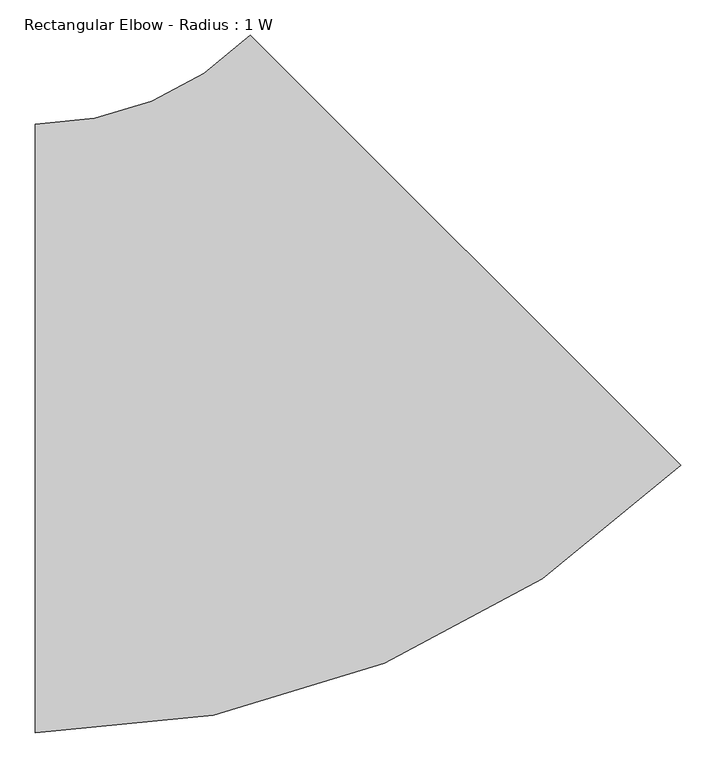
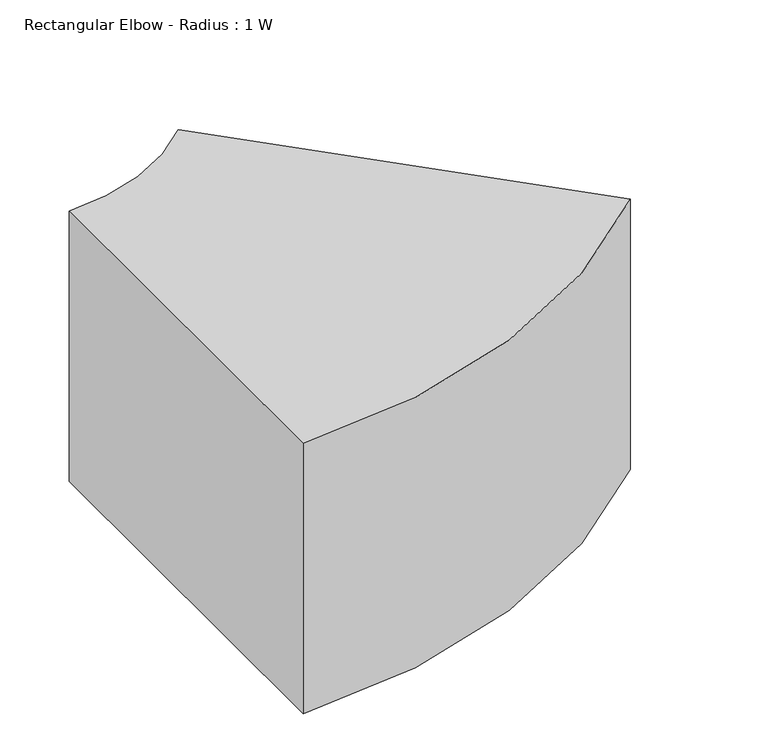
"""IFC4 building model written with IfcOpenShell, lengths in millimetres: duct fitting geometry, Rectangular Elbow - Radius : 1 W."""

from ifc_helpers import new_model, si_unit, point, frame, frame_2d, origin, place, context, project, spatial, polyline, circle_curve, trimmed, segment, composite_curve, outline, extrude, source, transform, mapped, element, save


def rectangular_elbow_radius_1_w_274ad7e4(model_context):
    return source(origin(), model_context, "Body", "SweptSolid", [
        extrude(outline(composite_curve([segment(trimmed(circle_curve(frame_2d((-357.7148325, 863.6)), 1295.4), [point((558.2712919, -52.3861243))], [point((-357.7148325, -431.8))], False, "CARTESIAN"), True, "CONTINUOUS"), segment(polyline([(-357.7148325, -431.8), (-357.7148325, 431.8)]), True, "CONTINUOUS"), segment(trimmed(circle_curve(frame_2d((-357.7148325, 863.6)), 431.8), [point((-357.7148325, 431.8))], [point((-52.3861243, 558.2712919))], True, "CARTESIAN"), True, "CONTINUOUS"), segment(polyline([(-52.3861243, 558.2712919), (558.2712919, -52.3861243)]), True, "CONTINUOUS")], self_intersect=False)), frame((0.0, 0.0, -304.8), z_axis=(0.0, 0.0, 1.0), x_axis=(1.0, 0.0, 0.0)), (0.0, 0.0, 1.0), 609.6),
    ])


if __name__ == "__main__":
    model = new_model("IFC4")
    model_context = context("Model", 3, world=origin())
    ifc_project = project(units=[si_unit("LENGTHUNIT", "METRE", prefix="MILLI")], contexts=[model_context])
    site = spatial("IfcSite", under=ifc_project)
    building = spatial("IfcBuilding", under=site)
    placement = place(None, origin())
    rectangular_elbow_radius_1_w_shape = rectangular_elbow_radius_1_w_274ad7e4(model_context)
    element("IfcDuctFitting", 1, ObjectType="Rectangular Elbow - Radius : 1 W", at=placement, inside=building, context=model_context, shape_type="MappedRepresentation", body=[
        mapped(rectangular_elbow_radius_1_w_shape, transform((0.0, 0.0, 0.0), x_axis=(1.0, 0.0, 0.0), y_axis=(0.0, 1.0, 0.0), z_axis=(0.0, 0.0, 1.0))),
    ])
    save(model, "model.ifc")
